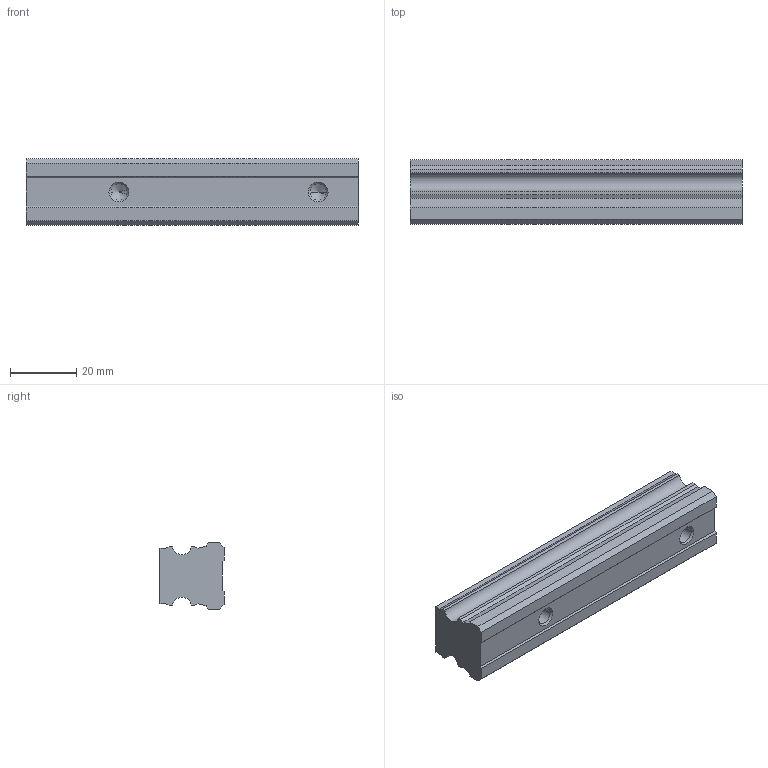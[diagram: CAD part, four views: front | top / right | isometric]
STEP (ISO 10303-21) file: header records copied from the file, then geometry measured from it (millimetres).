
FILE_DESCRIPTION( ( '' ), '1' );
FILE_NAME( 'c:/dr_tretter_step_out/schienenfuehrungen/alu_sf/b20_0100.stp', '2008-09-03T09:11:44', ( '' ), ( '' ), ' ', ' ', ' ' );
FILE_SCHEMA( ( 'CONFIG_CONTROL_DESIGN' ) );
Length unit declared in the file: millimetre
Products named in the file (1): 1
Bounding box: 100 x 19.3 x 20 mm (x, y, z)
Volume: 31714.9 mm3; surface area: 9140.5 mm2
Topology: 1 solids, 1 shells, 40 faces, 106 edges, 66 vertices
Faces by surface type: plane 26, cone 8, cylinder 6
Entity records: 1238 total; most frequent: CARTESIAN_POINT 209, ORIENTED_EDGE 204, DIRECTION 200, EDGE_CURVE 102, LINE 86, VECTOR 86, VERTEX_POINT 66, AXIS2_PLACEMENT_3D 57
